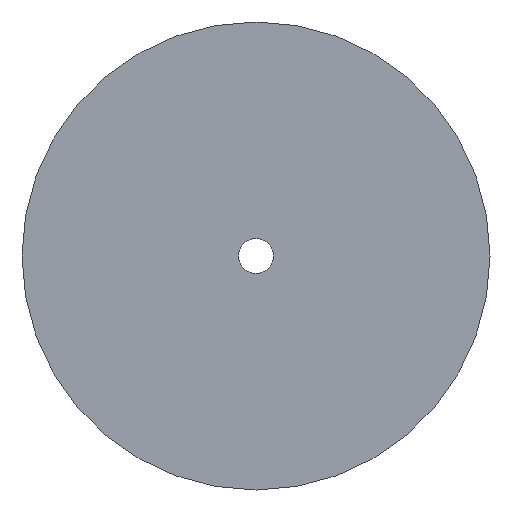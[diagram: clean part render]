
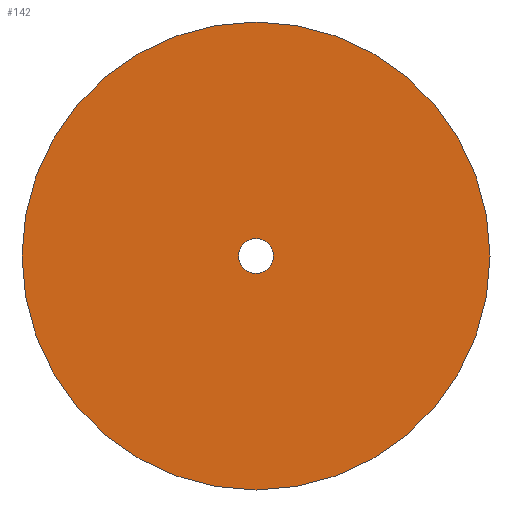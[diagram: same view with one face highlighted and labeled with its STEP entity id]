
A CAD part, front view. The second image highlights one B-rep face of the part: STEP entity #142.
In plain terms, the highlighted planar face has unit normal (0, -1, 0).
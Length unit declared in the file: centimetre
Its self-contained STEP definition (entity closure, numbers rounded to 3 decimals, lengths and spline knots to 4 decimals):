
#106=VERTEX_POINT('',#170);
#107=VERTEX_POINT('',#172);
#110=CIRCLE('',#147,5.4);
#111=CIRCLE('',#148,0.4);
#114=EDGE_CURVE('',#106,#106,#110,.T.);
#115=EDGE_CURVE('',#107,#107,#111,.T.);
#118=ORIENTED_EDGE('',*,*,#114,.F.);
#119=ORIENTED_EDGE('',*,*,#115,.T.);
#126=EDGE_LOOP('',(#118));
#127=EDGE_LOOP('',(#119));
#134=FACE_BOUND('',#126,.T.);
#135=FACE_BOUND('',#127,.T.);
#142=ADVANCED_FACE('',(#134,#135),#180,.T.);
#146=AXIS2_PLACEMENT_3D('',#168,#154,$);
#147=AXIS2_PLACEMENT_3D('',#169,#155,#156);
#148=AXIS2_PLACEMENT_3D('',#171,#157,#158);
#154=DIRECTION('',(0.,-1.,0.));
#155=DIRECTION('',(0.,1.,0.));
#156=DIRECTION('',(5.4,0.,0.));
#157=DIRECTION('',(0.,1.,0.));
#158=DIRECTION('',(0.4,0.,0.));
#168=CARTESIAN_POINT('',(2.9,-1.4849,0.));
#169=CARTESIAN_POINT('',(0.,-1.4849,0.));
#170=CARTESIAN_POINT('',(5.4,-1.4849,0.));
#171=CARTESIAN_POINT('',(0.,-1.4849,0.));
#172=CARTESIAN_POINT('',(0.4,-1.4849,0.));
#180=PLANE('',#146);
